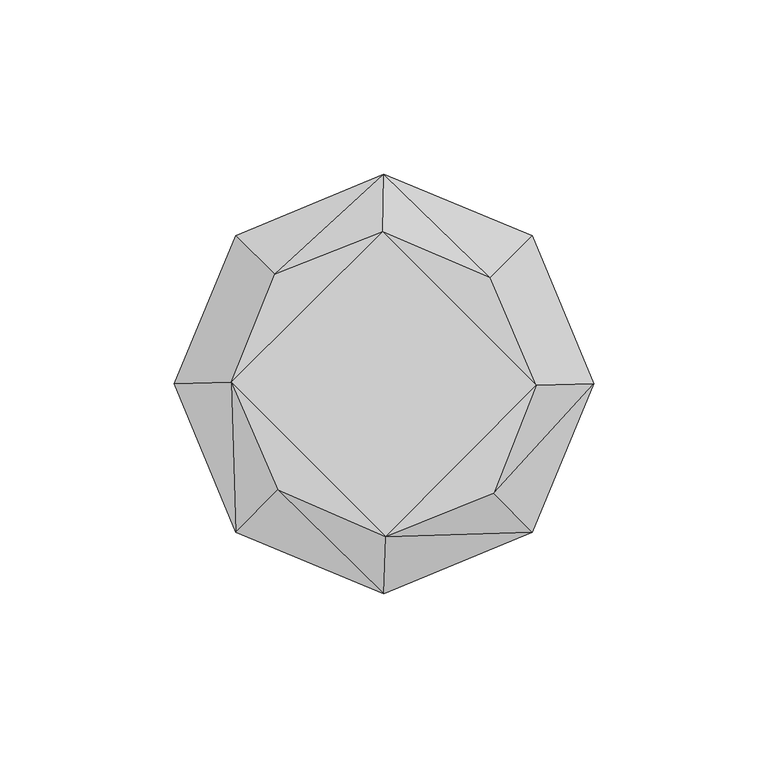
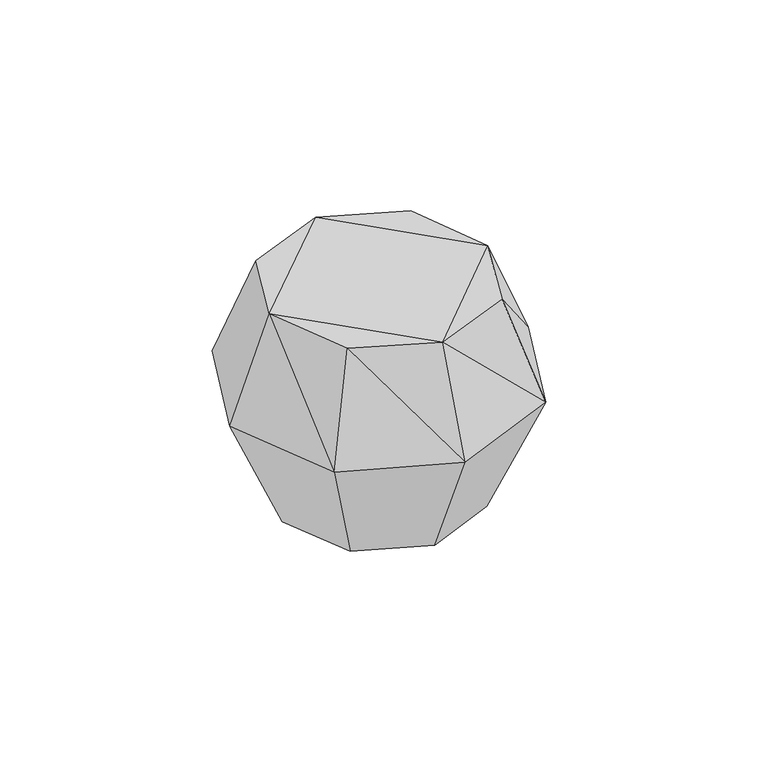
"""IFC4 building model written with IfcOpenShell, lengths in millimetres: geographic element geometry, Enscape AssetDefinition - Candle 001 : Enscape AssetDefinition - Candle 001."""

from ifc_helpers import new_model, si_unit, origin, place, context, project, spatial, triangles, source, transform, mapped, element, save


def geographic_element_780d2d84(model_context):
    return source(origin(), model_context, "Body", "Tessellation", [
        triangles([(0.0, 60.1913569, 48.114237), (0.0, 38.988445, 0.0), (-31.372297, 31.5029622, 89.3510323), (-0.3162143, 43.709882, 89.6332644), (42.5617553, 42.5617553, 48.114237), (-27.5690113, 27.5690113, 0.0), (-38.988445, 0.0, 0.0), (-42.5617553, 42.5617553, 48.114237), (43.7063983, -0.3127299, 88.7273058), (30.5473496, 30.5508355, 89.5714131), (60.1913569, 0.0, 48.114237), (0.4616904, -43.8579743, 89.1445769), (-43.8614579, 0.4651748, 89.927705), (-42.5617553, -42.5617553, 48.114237), (-60.1913569, 0.0, 48.114237), (-30.4201703, -30.4166845, 89.262166), (27.5690113, -27.5690113, 0.0), (0.0, -60.1913569, 48.114237), (38.988445, 0.0, 0.0), (31.4994786, -31.3688111, 88.985148), (42.5617553, -42.5617553, 48.114237), (27.5690113, 27.5690113, 0.0), (0.0, -38.988445, 0.0), (-27.5690113, -27.5690113, 0.0)], [[24, 7, 6], [15, 7, 24], [24, 14, 15], [2, 23, 6], [23, 24, 6], [14, 24, 23], [2, 22, 23], [5, 22, 2], [22, 5, 11], [22, 19, 23], [11, 19, 22], [19, 17, 23], [20, 21, 11], [19, 11, 21], [21, 17, 19], [17, 21, 18], [18, 23, 17], [23, 18, 14], [16, 14, 18], [13, 15, 14], [14, 16, 13], [13, 16, 12], [12, 18, 21], [21, 20, 12], [18, 12, 16], [12, 20, 9], [9, 11, 5], [11, 9, 20], [5, 10, 9], [12, 9, 4], [9, 10, 4], [13, 12, 4], [3, 13, 4], [15, 13, 3], [3, 8, 15], [7, 15, 8], [8, 6, 7], [10, 5, 1], [1, 4, 10], [3, 4, 1], [1, 8, 3], [2, 1, 5], [6, 8, 1], [1, 2, 6]]),
    ])


if __name__ == "__main__":
    model = new_model("IFC4")
    model_context = context("Model", 3, world=origin())
    ifc_project = project(units=[si_unit("LENGTHUNIT", "METRE", prefix="MILLI")], contexts=[model_context])
    site = spatial("IfcSite", under=ifc_project)
    building = spatial("IfcBuilding", under=site)
    placement = place(None, origin())
    geographic_element_shape = geographic_element_780d2d84(model_context)
    element("IfcGeographicElement", 1, ObjectType="Enscape AssetDefinition - Candle 001 : Enscape AssetDefinition - Candle 001", at=placement, inside=building, context=model_context, shape_type="MappedRepresentation", body=[
        mapped(geographic_element_shape, transform((0.0, 0.0, 0.0), x_axis=(1.0, 0.0, 0.0), y_axis=(0.0, 1.0, 0.0), z_axis=(0.0, 0.0, 1.0))),
    ])
    save(model, "model.ifc")
